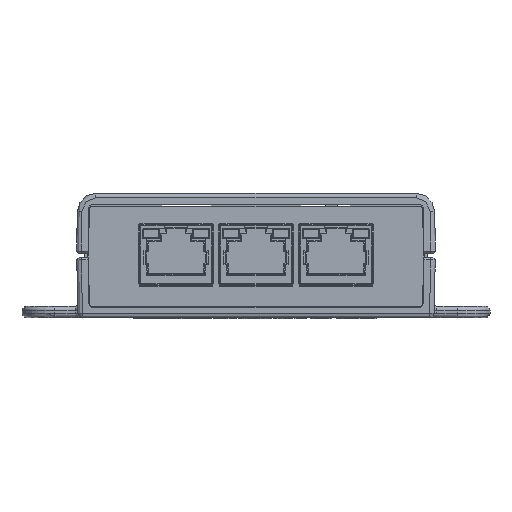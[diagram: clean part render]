
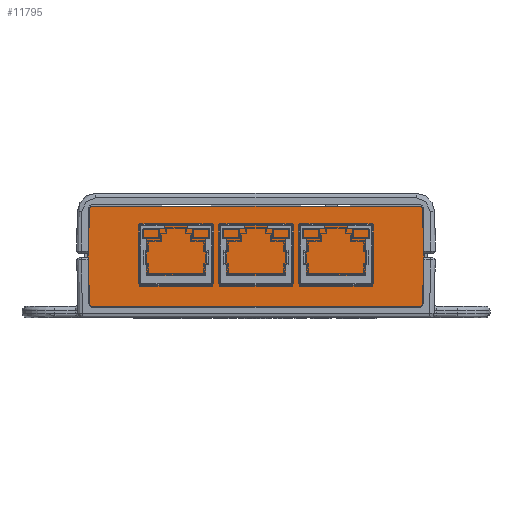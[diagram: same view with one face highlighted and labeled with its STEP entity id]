
A CAD part, front view. The second image highlights one B-rep face of the part: STEP entity #11795.
In plain terms, the highlighted planar face has unit normal (0, -1, 0) as drawn and (0, 0, 1) by its records, which use the part's own axes.
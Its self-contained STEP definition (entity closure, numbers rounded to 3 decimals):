
#11795=ADVANCED_FACE('NONE',(#24152),#24153,.T.);
#24152=FACE_OUTER_BOUND('',#40672,.T.);
#24153=PLANE('',#40673);
#40672=EDGE_LOOP('',(#76055,#76056,#76057,#76058,#76059,#76060,#76061,#76062,#76063,#76064));
#40673=AXIS2_PLACEMENT_3D('',#76065,#76066,#76067);
#76055=ORIENTED_EDGE('',*,*,#96298,.T.);
#76056=ORIENTED_EDGE('',*,*,#96437,.T.);
#76057=ORIENTED_EDGE('',*,*,#96433,.T.);
#76058=ORIENTED_EDGE('',*,*,#96416,.T.);
#76059=ORIENTED_EDGE('',*,*,#96438,.T.);
#76060=ORIENTED_EDGE('',*,*,#96419,.T.);
#76061=ORIENTED_EDGE('',*,*,#96439,.T.);
#76062=ORIENTED_EDGE('',*,*,#96424,.T.);
#76063=ORIENTED_EDGE('',*,*,#96431,.T.);
#76064=ORIENTED_EDGE('',*,*,#96440,.T.);
#76065=CARTESIAN_POINT('',(0.0,0.0,1.3));
#76066=DIRECTION('',(-0.0,0.0,1.0));
#76067=DIRECTION('',(1.0,0.0,0.0));
#96298=EDGE_CURVE('NONE',#117374,#117372,#117375,.T.);
#96416=EDGE_CURVE('NONE',#117605,#117603,#117606,.T.);
#96419=EDGE_CURVE('NONE',#117609,#117610,#117611,.T.);
#96424=EDGE_CURVE('NONE',#117618,#117619,#117620,.T.);
#96431=EDGE_CURVE('NONE',#117619,#117629,#117631,.T.);
#96433=EDGE_CURVE('NONE',#117633,#117605,#117634,.T.);
#96437=EDGE_CURVE('NONE',#117372,#117633,#117639,.T.);
#96438=EDGE_CURVE('NONE',#117603,#117609,#117640,.T.);
#96439=EDGE_CURVE('NONE',#117610,#117618,#117641,.T.);
#96440=EDGE_CURVE('NONE',#117629,#117374,#117642,.T.);
#117372=VERTEX_POINT('NONE',#148364);
#117374=VERTEX_POINT('NONE',#148367);
#117375=LINE('',#148368,#148369);
#117603=VERTEX_POINT('NONE',#149200);
#117605=VERTEX_POINT('NONE',#149203);
#117606=LINE('',#149204,#149205);
#117609=VERTEX_POINT('NONE',#149209);
#117610=VERTEX_POINT('NONE',#149210);
#117611=LINE('',#149211,#149212);
#117618=VERTEX_POINT('NONE',#149222);
#117619=VERTEX_POINT('NONE',#149223);
#117620=LINE('',#149224,#149225);
#117629=VERTEX_POINT('NONE',#149238);
#117631=LINE('',#149241,#149242);
#117633=VERTEX_POINT('NONE',#149244);
#117634=LINE('',#149245,#149246);
#117639=CIRCLE('',#149253,0.5);
#117640=CIRCLE('',#149254,0.5);
#117641=CIRCLE('',#149255,0.5);
#117642=CIRCLE('',#149256,0.5);
#148364=CARTESIAN_POINT('',(-35.395,21.777,1.3));
#148367=CARTESIAN_POINT('',(35.395,21.777,1.3));
#148368=CARTESIAN_POINT('',(-35.9,21.777,1.3));
#148369=VECTOR('',#167581,1000.0);
#149200=CARTESIAN_POINT('',(-35.895,0.505,1.3));
#149203=CARTESIAN_POINT('',(-36.258,10.9,1.3));
#149204=CARTESIAN_POINT('',(-36.258,10.901,1.3));
#149205=VECTOR('',#167666,1000.0);
#149209=CARTESIAN_POINT('',(-35.395,0.023,1.3));
#149210=CARTESIAN_POINT('',(35.395,0.023,1.3));
#149211=CARTESIAN_POINT('',(-35.9,0.023,1.3));
#149212=VECTOR('',#167668,1000.0);
#149222=CARTESIAN_POINT('',(35.895,0.505,1.3));
#149223=CARTESIAN_POINT('',(36.258,10.9,1.3));
#149224=CARTESIAN_POINT('',(36.258,10.901,1.3));
#149225=VECTOR('',#167672,1000.0);
#149238=CARTESIAN_POINT('',(35.895,21.295,1.3));
#149241=CARTESIAN_POINT('',(35.877,21.799,1.3));
#149242=VECTOR('',#167678,1000.0);
#149244=CARTESIAN_POINT('',(-35.895,21.295,1.3));
#149245=CARTESIAN_POINT('',(-35.877,21.799,1.3));
#149246=VECTOR('',#167679,1000.0);
#149253=AXIS2_PLACEMENT_3D('',#167682,#167683,#167684);
#149254=AXIS2_PLACEMENT_3D('',#167685,#167686,#167687);
#149255=AXIS2_PLACEMENT_3D('',#167688,#167689,#167690);
#149256=AXIS2_PLACEMENT_3D('',#167691,#167692,#167693);
#167581=DIRECTION('',(-1.0,0.0,-0.0));
#167666=DIRECTION('',(0.035,-0.999,0.0));
#167668=DIRECTION('',(1.0,-0.0,-0.0));
#167672=DIRECTION('',(0.035,0.999,0.));
#167678=DIRECTION('',(-0.035,0.999,-0.0));
#167679=DIRECTION('',(-0.035,-0.999,-0.0));
#167682=CARTESIAN_POINT('',(-35.395,21.277,1.3));
#167683=DIRECTION('',(0.0,-0.0,1.0));
#167684=DIRECTION('',(0.,1.,0.0));
#167685=CARTESIAN_POINT('',(-35.395,0.523,1.3));
#167686=DIRECTION('',(0.0,0.0,1.0));
#167687=DIRECTION('',(-0.999,-0.035,0.0));
#167688=CARTESIAN_POINT('',(35.395,0.523,1.3));
#167689=DIRECTION('',(0.0,0.0,1.0));
#167690=DIRECTION('',(0.,-1.,0.0));
#167691=CARTESIAN_POINT('',(35.395,21.277,1.3));
#167692=DIRECTION('',(0.,0.,1.0));
#167693=DIRECTION('',(0.999,0.035,0.));
